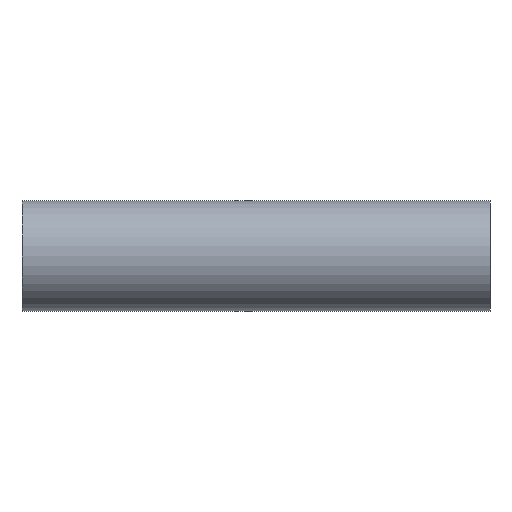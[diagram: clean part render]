
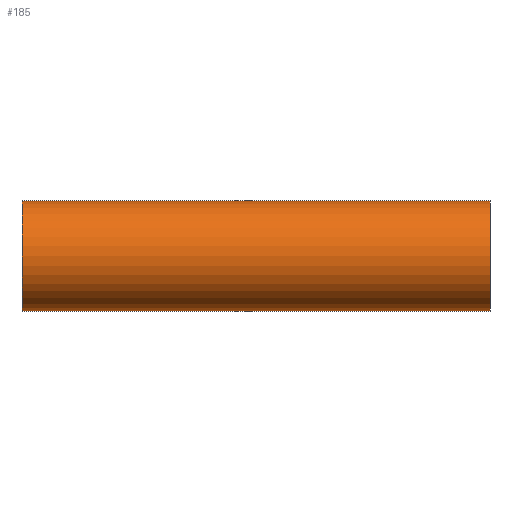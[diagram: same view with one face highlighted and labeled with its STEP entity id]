
A CAD part, front view. The second image highlights one B-rep face of the part: STEP entity #185.
In plain terms, the highlighted cylindrical face has radius 12.7 mm (diameter 25.4 mm), a partial arc.
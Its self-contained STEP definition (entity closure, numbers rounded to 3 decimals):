
#13 = CIRCLE ( 'NONE', #734, 12.7 ) ;
#32 = EDGE_LOOP ( 'NONE', ( #472, #295, #213, #962 ) ) ;
#147 = LINE ( 'NONE', #301, #1201 ) ;
#177 = CARTESIAN_POINT ( 'NONE',  ( 54., 0., 0. ) ) ;
#185 = ADVANCED_FACE ( 'NONE', ( #648 ), #649, .T. ) ;
#187 = CARTESIAN_POINT ( 'NONE',  ( -54., 0., -12.7 ) ) ;
#213 = ORIENTED_EDGE ( 'NONE', *, *, #1329, .T. ) ;
#246 = DIRECTION ( 'NONE',  ( 0., 0., -1. ) ) ;
#295 = ORIENTED_EDGE ( 'NONE', *, *, #386, .T. ) ;
#300 = DIRECTION ( 'NONE',  ( 1., 0., 0. ) ) ;
#301 = CARTESIAN_POINT ( 'NONE',  ( -54., 0., -12.7 ) ) ;
#307 = CARTESIAN_POINT ( 'NONE',  ( -54., 0., 12.7 ) ) ;
#386 = EDGE_CURVE ( 'NONE', #902, #1115, #13, .T. ) ;
#405 = DIRECTION ( 'NONE',  ( -1., 0., 0. ) ) ;
#455 = DIRECTION ( 'NONE',  ( 1., 0., 0. ) ) ;
#464 = DIRECTION ( 'NONE',  ( 1., 0., 0. ) ) ;
#472 = ORIENTED_EDGE ( 'NONE', *, *, #736, .F. ) ;
#495 = VECTOR ( 'NONE', #300, 1000. ) ;
#547 = CARTESIAN_POINT ( 'NONE',  ( -54., 0., 12.7 ) ) ;
#549 = VERTEX_POINT ( 'NONE', #1021 ) ;
#614 = AXIS2_PLACEMENT_3D ( 'NONE', #177, #405, #246 ) ;
#648 = FACE_OUTER_BOUND ( 'NONE', #32, .T. ) ;
#649 = CYLINDRICAL_SURFACE ( 'NONE', #1203, 12.7 ) ;
#718 = DIRECTION ( 'NONE',  ( 1., 0., 0. ) ) ;
#721 = VERTEX_POINT ( 'NONE', #1144 ) ;
#734 = AXIS2_PLACEMENT_3D ( 'NONE', #895, #464, #1339 ) ;
#736 = EDGE_CURVE ( 'NONE', #902, #549, #1170, .T. ) ;
#838 = EDGE_CURVE ( 'NONE', #721, #549, #1083, .T. ) ;
#895 = CARTESIAN_POINT ( 'NONE',  ( -54., 0., 0. ) ) ;
#902 = VERTEX_POINT ( 'NONE', #547 ) ;
#962 = ORIENTED_EDGE ( 'NONE', *, *, #838, .T. ) ;
#1021 = CARTESIAN_POINT ( 'NONE',  ( 54., 0., 12.7 ) ) ;
#1083 = CIRCLE ( 'NONE', #614, 12.7 ) ;
#1115 = VERTEX_POINT ( 'NONE', #187 ) ;
#1125 = CARTESIAN_POINT ( 'NONE',  ( -54., 0., 0. ) ) ;
#1144 = CARTESIAN_POINT ( 'NONE',  ( 54., 0., -12.7 ) ) ;
#1170 = LINE ( 'NONE', #307, #495 ) ;
#1201 = VECTOR ( 'NONE', #718, 1000. ) ;
#1203 = AXIS2_PLACEMENT_3D ( 'NONE', #1125, #455, #1223 ) ;
#1223 = DIRECTION ( 'NONE',  ( 0., 0., -1. ) ) ;
#1329 = EDGE_CURVE ( 'NONE', #1115, #721, #147, .T. ) ;
#1339 = DIRECTION ( 'NONE',  ( 0., 0., -1. ) ) ;
